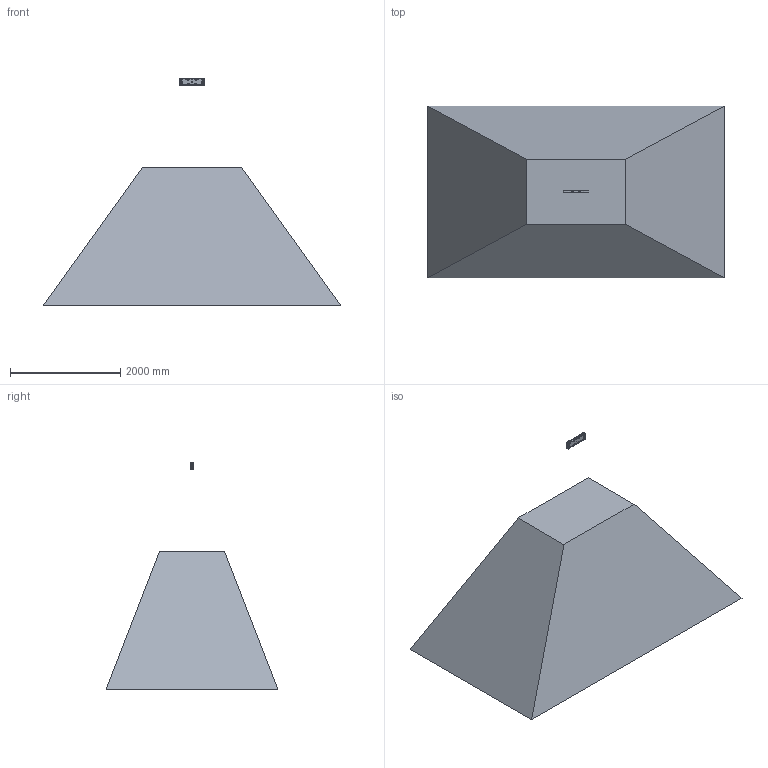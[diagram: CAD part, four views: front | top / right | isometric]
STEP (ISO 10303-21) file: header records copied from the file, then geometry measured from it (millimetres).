
FILE_DESCRIPTION((''),'2;1');
FILE_NAME('ASM0002_ASM','2024-05-28T',('Ҧ'),(''),'PRO/ENGINEER BY PARAMETRIC TECHNOLOGY CORPORATION, 2010280','PRO/ENGINEER BY PARAMETRIC TECHNOLOGY CORPORATION, 2010280','');
FILE_SCHEMA(('CONFIG_CONTROL_DESIGN'));
Products named in the file (10): 8X100X450; MV-CU013-A0GMGC; MVL-HF0624M-10MP; MV_ASM; 3002; PC-S; 1X10; 36X28X2; M16; ASM0002_ASM
Assembly tree (16 placements, depth 3):
  ASM0002_ASM
    8X100X450
    MV_ASM  x2
      MV-CU013-A0GMGC
      MVL-HF0624M-10MP
    3002
    PC-S
    1X10  x5
    36X28X2  x2
    M16  x2
Bounding box: 5388.07 x 3114.63 x 4125.44 mm (x, y, z)
Volume: 20716688904.8 mm3; surface area: 51851437.9 mm2
Topology: 21 solids, 47 shells, 9756 faces, 26432 edges, 16997 vertices
Faces by surface type: plane 4779, cylinder 2297, bspline 1118, cone 1088, torus 394, sphere 52, extrusion 28
Entity records: 207437 total; most frequent: CARTESIAN_POINT 61387, ORIENTED_EDGE 31796, DIRECTION 28818, EDGE_CURVE 15898, VERTEX_POINT 10175, AXIS2_PLACEMENT_3D 10000, VECTOR 8818, LINE 8804
